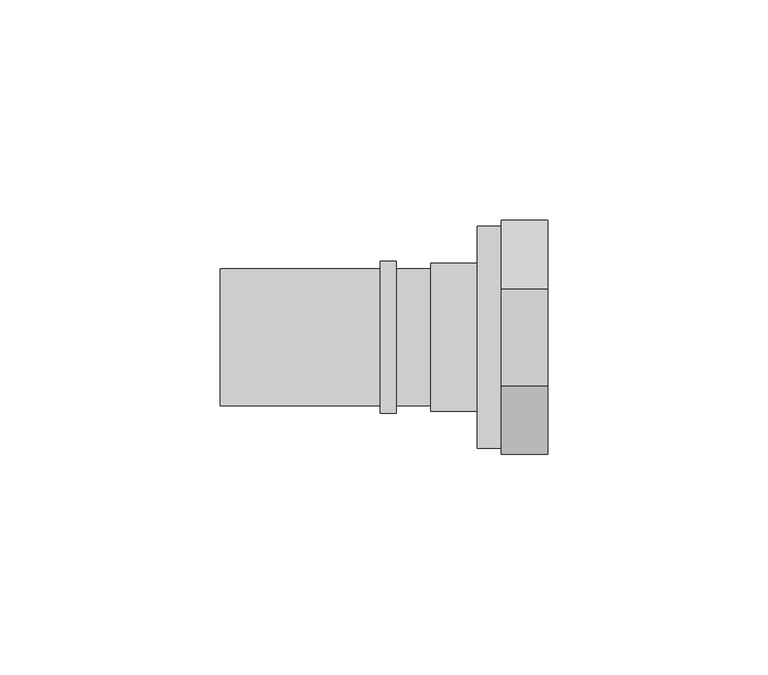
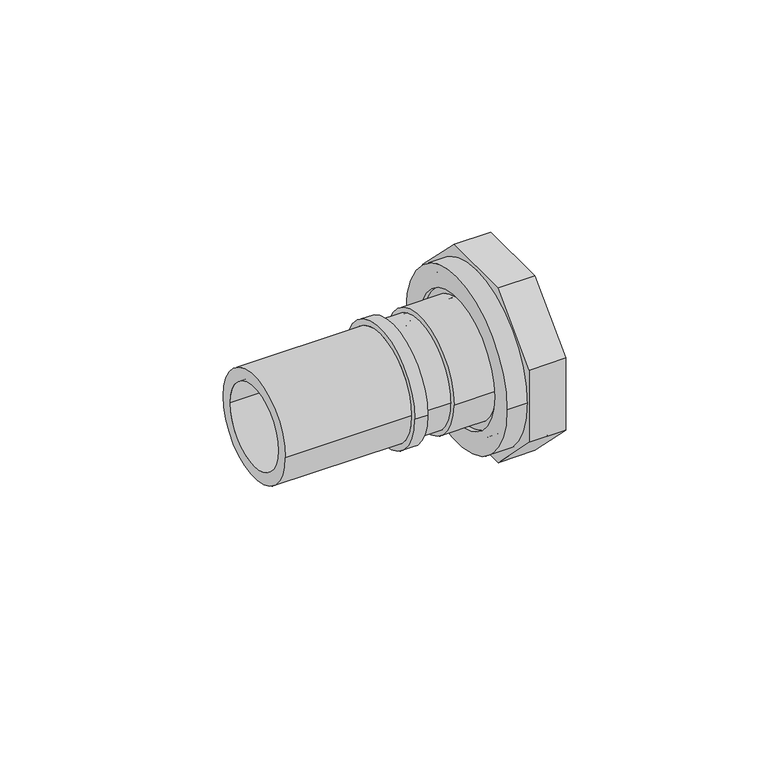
"""IFC4 building model written with IfcOpenShell, lengths in millimetres: pipe fitting geometry, FASTLOC_Adapter with union nut LX : FSL A union nut PL."""

import ifcopenshell
import ifcopenshell.guid

model = None  # the IFC model being written
_history = None  # IfcOwnerHistory: only IFC2X3 demands one
_inside = {}  # id of a spatial element -> (the spatial element, [elements in it])
_under = {}  # id of a project, library or spatial element -> (it, [spatial elements below it])
_declared = {}  # id of a project -> (the project, [libraries it declares])
_typed = {}  # id of a type object -> (the type object, [elements of that type])
_made_of = {}  # id of a material, layer set ... -> (it, [elements and type objects made of it])


def new_model(schema):
    """Start an empty IFC model of exactly this schema.

    Asked for "IFC4X3", IfcOpenShell would pick the latest addendum, in which some entities
    have other attributes; the version numbers below select the first issue.
    IFC2X3 requires an IfcOwnerHistory on every rooted entity: one is made here for all.
    """
    global model, _history
    if schema == "IFC4X3":
        model = ifcopenshell.file(schema_version=(4, 3, 0, 0))
    else:
        model = ifcopenshell.file(schema=schema)
    _inside.clear()
    _under.clear()
    _declared.clear()
    _typed.clear()
    _made_of.clear()
    _history = None
    if model.schema == "IFC2X3":
        org = make("IfcOrganization", Name="unknown")
        user = make(
            "IfcPersonAndOrganization",
            ThePerson=make("IfcPerson", FamilyName="unknown"),
            TheOrganization=org,
        )
        app = make(
            "IfcApplication",
            ApplicationDeveloper=org,
            Version="unknown",
            ApplicationFullName="unknown",
            ApplicationIdentifier="unknown",
        )
        _history = make(
            "IfcOwnerHistory",
            OwningUser=user,
            OwningApplication=app,
            ChangeAction="ADDED",
            CreationDate=0,
        )
    return model


def make(cls, **values):
    """One entity of the class cls with the attributes given. An attribute that is None is left unset."""
    return model.create_entity(
        cls, **{name: value for name, value in values.items() if value is not None}
    )


def rooted(cls, **values):
    """An entity with a GlobalId (a new one), such as an element, a storey or a relation."""
    return make(cls, GlobalId=ifcopenshell.guid.new(), OwnerHistory=_history, **values)


def si_unit(unit_type, name, prefix=None):
    """IfcSIUnit, for example si_unit("LENGTHUNIT", "METRE", prefix="MILLI")."""
    return make("IfcSIUnit", UnitType=unit_type, Prefix=prefix, Name=name)


def assignment(units):
    """IfcUnitAssignment: the units of a project."""
    return None if units is None else make("IfcUnitAssignment", Units=units)


def point(xyz):
    """IfcCartesianPoint."""
    return None if xyz is None else make("IfcCartesianPoint", Coordinates=xyz)


def direction(xyz):
    """IfcDirection."""
    return None if xyz is None else make("IfcDirection", DirectionRatios=xyz)


def frame(location, z_axis=None, x_axis=None):
    """IfcAxis2Placement3D, a coordinate frame: its origin and axes. An axis left out is left unset."""
    return make(
        "IfcAxis2Placement3D",
        Location=point(location),
        Axis=direction(z_axis),
        RefDirection=direction(x_axis),
    )


def frame_2d(location, x_axis=None):
    """IfcAxis2Placement2D, a coordinate frame in the plane: its origin and x axis."""
    return make(
        "IfcAxis2Placement2D", Location=point(location), RefDirection=direction(x_axis)
    )


def origin():
    """The frame at (0, 0, 0) with its axes left unset."""
    return frame((0.0, 0.0, 0.0))


def origin_2d():
    """The frame at (0, 0) in the plane with its x axis left unset."""
    return frame_2d((0.0, 0.0))


def place(relative_to, where):
    """IfcLocalPlacement: puts the frame where relative to a parent placement (None: the world)."""
    return make(
        "IfcLocalPlacement", PlacementRelTo=relative_to, RelativePlacement=where
    )


def context(
    kind, dimensions, precision=None, world=None, true_north=None, identifier=None
):
    """IfcGeometricRepresentationContext, for example the 3D "Model" context."""
    return make(
        "IfcGeometricRepresentationContext",
        ContextIdentifier=identifier,
        ContextType=kind,
        CoordinateSpaceDimension=dimensions,
        Precision=precision,
        WorldCoordinateSystem=world,
        TrueNorth=true_north,
    )


def project(units=None, contexts=None):
    """IfcProject with its units and contexts."""
    return rooted(
        "IfcProject",
        Name="project",
        RepresentationContexts=contexts,
        UnitsInContext=assignment(units),
    )


def spatial(cls, under=None, at=None, **own):
    """A site, building, storey or space (cls), placed at a placement, below another one or the project."""
    s = rooted(cls, ObjectPlacement=at, **own)
    if under is not None:
        _under.setdefault(under.id(), (under, []))[1].append(s)
    return s


def polyline(points):
    """IfcPolyline through the points."""
    return make("IfcPolyline", Points=[point(p) for p in points])


def circle_curve(where, radius):
    """IfcCircle in the frame where."""
    return make("IfcCircle", Position=where, Radius=radius)


def trimmed(basis, trim1, trim2, sense, master):
    """IfcTrimmedCurve: the piece of a basis curve between two trims."""
    return make(
        "IfcTrimmedCurve",
        BasisCurve=basis,
        Trim1=trim1,
        Trim2=trim2,
        SenseAgreement=sense,
        MasterRepresentation=master,
    )


def segment(curve, same_sense, transition):
    """IfcCompositeCurveSegment."""
    return make(
        "IfcCompositeCurveSegment",
        Transition=transition,
        SameSense=same_sense,
        ParentCurve=curve,
    )


def composite_curve(segments, self_intersect=None):
    """IfcCompositeCurve: segments joined end to end."""
    return make("IfcCompositeCurve", Segments=segments, SelfIntersect=self_intersect)


def outline(outer, holes=None, kind="AREA"):
    """IfcArbitraryClosedProfileDef: a profile drawn as a closed curve; with holes, ...WithVoids."""
    if holes is None:
        return make("IfcArbitraryClosedProfileDef", ProfileType=kind, OuterCurve=outer)
    return make(
        "IfcArbitraryProfileDefWithVoids",
        ProfileType=kind,
        OuterCurve=outer,
        InnerCurves=holes,
    )


def extrude(swept, where, along, depth):
    """IfcExtrudedAreaSolid: the profile swept, set in the frame where, extruded along a direction by depth."""
    return make(
        "IfcExtrudedAreaSolid",
        SweptArea=swept,
        Position=where,
        ExtrudedDirection=direction(along),
        Depth=depth,
    )


def shape(context_of_items, identifier, shape_type, items):
    """IfcShapeRepresentation: the items that make up one representation, for example the "Body"."""
    return make(
        "IfcShapeRepresentation",
        ContextOfItems=context_of_items,
        RepresentationIdentifier=identifier,
        RepresentationType=shape_type,
        Items=items,
    )


def source(mapping_origin, context_of_items, identifier, shape_type, items):
    """IfcRepresentationMap: a shape defined once, which mapped items show again and again."""
    return make(
        "IfcRepresentationMap",
        MappingOrigin=mapping_origin,
        MappedRepresentation=shape(context_of_items, identifier, shape_type, items),
    )


def transform(
    local_origin,
    x_axis=None,
    y_axis=None,
    z_axis=None,
    scale=None,
    scale2=None,
    scale3=None,
    uniform=True,
):
    """IfcCartesianTransformationOperator3D, or its non-uniform kind. x_axis, y_axis, z_axis: its Axis1, 2, 3."""
    if uniform:
        return make(
            "IfcCartesianTransformationOperator3D",
            Axis1=direction(x_axis),
            Axis2=direction(y_axis),
            LocalOrigin=point(local_origin),
            Scale=scale,
            Axis3=direction(z_axis),
        )
    return make(
        "IfcCartesianTransformationOperator3DnonUniform",
        Axis1=direction(x_axis),
        Axis2=direction(y_axis),
        LocalOrigin=point(local_origin),
        Scale=scale,
        Axis3=direction(z_axis),
        Scale2=scale2,
        Scale3=scale3,
    )


def mapped(mapping_source, mapping_target):
    """IfcMappedItem: shows the shape of a source again, moved by a transform."""
    return make(
        "IfcMappedItem", MappingSource=mapping_source, MappingTarget=mapping_target
    )


def made_of(thing, what):
    """Note that an element or type object is made of a material, layer set ...; save() writes the relation."""
    if what is not None:
        _made_of.setdefault(what.id(), (what, []))[1].append(thing)
    return thing


def element(
    cls,
    number,
    at=None,
    inside=None,
    cuts=None,
    type_object=None,
    material=None,
    context=None,
    identifier="Body",
    shape_type=None,
    held_by="IfcProductDefinitionShape",
    body=None,
    shapes=None,
    **own,
):
    """One element of the class cls, such as IfcWall. Its Tag is "e" and its number.

    at: its placement. inside: the storey or other place that contains it. cuts: it is an
    opening in that element (IfcRelVoidsElement). A single representation is given by context,
    identifier, shape_type and body (its items); several are given by shapes. held_by: the class
    of the entity that holds the representations. save() writes the other relations.
    """
    e = rooted(cls, Tag="e%d" % number, ObjectPlacement=at, **own)
    if body is not None:
        shapes = [shape(context, identifier, shape_type, body)]
    if shapes is not None:
        e.Representation = make(held_by, Representations=shapes)
    if inside is not None:
        _inside.setdefault(inside.id(), (inside, []))[1].append(e)
    if cuts is not None:
        rooted(
            "IfcRelVoidsElement", RelatingBuildingElement=cuts, RelatedOpeningElement=e
        )
    if type_object is not None:
        _typed.setdefault(type_object.id(), (type_object, []))[1].append(e)
    return made_of(e, material)


def aggregate(whole, parts):
    """IfcRelAggregates: a whole, such as a stair, and the parts it consists of."""
    return rooted("IfcRelAggregates", RelatingObject=whole, RelatedObjects=parts)


def save(model, path):
    """Write the relations noted so far, then the file.

    IfcRelAggregates (storeys below a building ...), IfcRelContainedInSpatialStructure (elements
    in a storey), IfcRelDefinesByType, IfcRelAssociatesMaterial and IfcRelDeclares: one each for
    every whole, place, type object, material and project.
    """
    for whole, parts in _under.values():
        aggregate(whole, parts)
    for where, things in _inside.values():
        rooted(
            "IfcRelContainedInSpatialStructure",
            RelatedElements=things,
            RelatingStructure=where,
        )
    for kind, things in _typed.values():
        rooted("IfcRelDefinesByType", RelatedObjects=things, RelatingType=kind)
    for what, things in _made_of.values():
        rooted("IfcRelAssociatesMaterial", RelatedObjects=things, RelatingMaterial=what)
    for by, libraries in _declared.values():
        rooted("IfcRelDeclares", RelatingContext=by, RelatedDefinitions=libraries)
    model.write(path)


def plane_surface(at):
    """IfcPlane: the flat surface through the origin of the frame at, square to its z axis."""
    return make("IfcPlane", Position=at)


def cylinder_surface(at, radius):
    """IfcCylindricalSurface: all points at the distance radius from the z axis of the frame at."""
    return make("IfcCylindricalSurface", Position=at, Radius=radius)


def revolved_surface(curve, axis_point, axis_direction):
    """IfcSurfaceOfRevolution: the curve turned about the line through axis_point along axis_direction."""
    return make(
        "IfcSurfaceOfRevolution",
        SweptCurve=make("IfcArbitraryOpenProfileDef", ProfileType="CURVE", Curve=curve),
        AxisPosition=make("IfcAxis1Placement", Location=point(axis_point), Axis=direction(axis_direction)),
    )


def advanced_brep(points, edges, surfaces, faces):
    """IfcAdvancedBrep: a solid bounded by faces that lie on surfaces and meet in shared edges.

    An edge is (start, end): straight between two places in points (the first is 0);
    or (start, end, curve); or (start, end, curve, False) where it runs against its curve.
    A face is (place in surfaces, loops), or (place, loops, False) where it looks against
    its surface's normal. A loop lists edges by number (the first is 1), with a minus sign
    where the edge is run from its end to its start. The first loop is the outer one.
    """
    corners = [point(p) for p in points]
    vertices = [make("IfcVertexPoint", VertexGeometry=c) for c in corners]
    made = []
    for start, end, *more in edges:
        made.append(
            make(
                "IfcEdgeCurve",
                EdgeStart=vertices[start],
                EdgeEnd=vertices[end],
                EdgeGeometry=more[0] if more else make("IfcPolyline", Points=[corners[start], corners[end]]),
                SameSense=more[1] if len(more) > 1 else True,
            )
        )
    hull = []
    for where, loops, *sense in faces:
        bounds = []
        for j, loop in enumerate(loops):
            ring = [make("IfcOrientedEdge", EdgeElement=made[abs(k) - 1], Orientation=k > 0) for k in loop]
            bounds.append(
                make(
                    "IfcFaceOuterBound" if j == 0 else "IfcFaceBound",
                    Bound=make("IfcEdgeLoop", EdgeList=ring),
                    Orientation=True,
                )
            )
        hull.append(make("IfcAdvancedFace", Bounds=bounds, FaceSurface=surfaces[where], SameSense=sense[0] if sense else True))
    return make("IfcAdvancedBrep", Outer=make("IfcClosedShell", CfsFaces=hull))


def pipe_fitting_e0dfd6fd(model_context):
    return source(origin(), model_context, "Body", "SolidModel", [
        advanced_brep(
        [(12.0, 16.75, 0.0), (12.0, -16.75, 0.0), (0.0, -16.75, 0.0), (0.0, 16.75, 0.0), (14.0, 20.85, 0.0), (14.0, -20.85, 0.0), (12.0, -20.85, 0.0), (12.0, 20.85, 0.0), (1.4730817, 15.0, 0.0), (1.4730817, -15.0, 0.0), (14.0, -15.0, 0.0), (14.0, 15.0, 0.0), (0.0, 12.8264556, 0.0), (0.0, -12.8264556, 0.0), (1.4730817, -12.8264556, 0.0), (1.4730817, 12.8264556, 0.0)],
        [
            (0, 1, circle_curve(frame((12.0, 0.0, 0.0), z_axis=(-1.0, 0.0, 0.0), x_axis=(0.0, -1.0, 0.0)), 16.75)),
            (1, 2),
            (2, 3, circle_curve(frame((0.0, 0.0, 0.0), z_axis=(1.0, 0.0, 0.0), x_axis=(0.0, -1.0, 0.0)), 16.75)),
            (3, 0),
            (4, 5, circle_curve(frame((14.0, 0.0, 0.0), z_axis=(-1.0, 0.0, 0.0), x_axis=(0.0, -1.0, 0.0)), 20.85)),
            (5, 6),
            (6, 7, circle_curve(frame((12.0, 0.0, 0.0), z_axis=(1.0, 0.0, 0.0), x_axis=(0.0, -1.0, 0.0)), 20.85)),
            (7, 4),
            (8, 9, circle_curve(frame((1.4730817, 0.0, 0.0), z_axis=(-1.0, 0.0, 0.0), x_axis=(0.0, -1.0, 0.0)), 15.0)),
            (9, 10),
            (10, 11, circle_curve(frame((14.0, 0.0, 0.0), z_axis=(1.0, 0.0, 0.0), x_axis=(0.0, -1.0, 0.0)), 15.0)),
            (11, 8),
            (12, 13, circle_curve(frame((0.0, 0.0, 0.0), z_axis=(-1.0, 0.0, 0.0), x_axis=(0.0, -1.0, 0.0)), 12.8264556)),
            (13, 14),
            (14, 15, circle_curve(frame((1.4730817, 0.0, 0.0), z_axis=(1.0, 0.0, 0.0), x_axis=(0.0, -1.0, 0.0)), 12.8264556)),
            (15, 12),
            (2, 3, circle_curve(frame((0.0, 0.0, 0.0), z_axis=(-1.0, 0.0, 0.0), x_axis=(0.0, 1.0, 0.0)), 16.75)),
            (12, 13, circle_curve(frame((0.0, 0.0, 0.0), z_axis=(1.0, 0.0, 0.0), x_axis=(0.0, 1.0, 0.0)), 12.8264556)),
            (1, 0, circle_curve(frame((12.0, 0.0, 0.0), z_axis=(-1.0, 0.0, 0.0), x_axis=(0.0, 1.0, 0.0)), 16.75)),
            (6, 7, circle_curve(frame((12.0, 0.0, 0.0), z_axis=(-1.0, 0.0, 0.0), x_axis=(0.0, 1.0, 0.0)), 20.85)),
            (5, 4, circle_curve(frame((14.0, 0.0, 0.0), z_axis=(-1.0, 0.0, 0.0), x_axis=(0.0, 1.0, 0.0)), 20.85)),
            (10, 11, circle_curve(frame((14.0, 0.0, 0.0), z_axis=(-1.0, 0.0, 0.0), x_axis=(0.0, 1.0, 0.0)), 15.0)),
            (9, 8, circle_curve(frame((1.4730817, 0.0, 0.0), z_axis=(-1.0, 0.0, 0.0), x_axis=(0.0, 1.0, 0.0)), 15.0)),
            (14, 15, circle_curve(frame((1.4730817, 0.0, 0.0), z_axis=(-1.0, 0.0, 0.0), x_axis=(0.0, 1.0, 0.0)), 12.8264556)),
        ],
        [
            cylinder_surface(frame((0.0, 0.0, 0.0), z_axis=(1.0, 0.0, 0.0), x_axis=(0.0, -1.0, 0.0)), 16.75),
            cylinder_surface(frame((0.0, 0.0, 0.0), z_axis=(1.0, 0.0, 0.0), x_axis=(0.0, -1.0, 0.0)), 20.85),
            revolved_surface(polyline([(14.0, -15.0, 0.0), (1.4730817, -15.0, 0.0)]), (0.0, 0.0, 0.0), (1.0, 0.0, 0.0)),
            revolved_surface(polyline([(1.4730817, -12.8264556, 0.0), (0.0, -12.8264556, 0.0)]), (0.0, 0.0, 0.0), (1.0, 0.0, 0.0)),
            plane_surface(frame((0.0, 0.0, 0.0), z_axis=(-1.0, 0.0, 0.0), x_axis=(0.0, 1.0, 0.0))),
            cylinder_surface(frame((0.0, 0.0, 0.0), z_axis=(1.0, 0.0, 0.0), x_axis=(0.0, 1.0, 0.0)), 16.75),
            plane_surface(frame((12.0, 0.0, 0.0), z_axis=(-1.0, 0.0, 0.0), x_axis=(0.0, 1.0, 0.0))),
            cylinder_surface(frame((0.0, 0.0, 0.0), z_axis=(1.0, 0.0, 0.0), x_axis=(0.0, 1.0, 0.0)), 20.85),
            plane_surface(frame((14.0, 0.0, 0.0), z_axis=(1.0, 0.0, 0.0), x_axis=(0.0, 1.0, 0.0))),
            revolved_surface(polyline([(14.0, 15.0, 0.0), (1.4730817, 15.0, 0.0)]), (0.0, 0.0, 0.0), (1.0, 0.0, 0.0)),
            plane_surface(frame((1.4730817, 0.0, 0.0), z_axis=(1.0, 0.0, 0.0), x_axis=(0.0, 1.0, 0.0))),
            revolved_surface(polyline([(1.4730817, 12.8264556, 0.0), (0.0, 12.8264556, 0.0)]), (0.0, 0.0, 0.0), (1.0, 0.0, 0.0)),
        ],
        [
            (0, [[1, 2, 3, 4]]),
            (1, [[5, 6, 7, 8]]),
            (2, [[9, 10, 11, 12]]),
            (3, [[13, 14, 15, 16]]),
            (4, [[17, -3], [18, -13]]),
            (5, [[19, -4, -17, -2]]),
            (6, [[20, -7], [-19, -1]]),
            (7, [[21, -8, -20, -6]]),
            (8, [[-21, -5], [22, -11]]),
            (9, [[23, -12, -22, -10]]),
            (10, [[-23, -9], [24, -15]]),
            (11, [[-18, -16, -24, -14]]),
        ],
    ),
        advanced_brep(
        [(26.5, 25.15, 0.0), (26.5, -25.15, 0.0), (10.5, -25.15, 0.0), (10.5, 25.15, 0.0), (14.0, 22.25, 0.0), (14.0, -22.25, 0.0), (26.5, -22.25, 0.0), (26.5, 22.25, 0.0), (10.5, 18.75, 0.0), (10.5, -18.75, 0.0), (14.0, -18.75, 0.0), (14.0, 18.75, 0.0)],
        [
            (0, 1, circle_curve(frame((26.5, 0.0, 0.0), z_axis=(-1.0, 0.0, 0.0), x_axis=(0.0, -1.0, 0.0)), 25.15)),
            (1, 2),
            (2, 3, circle_curve(frame((10.5, 0.0, 0.0), z_axis=(1.0, 0.0, 0.0), x_axis=(0.0, -1.0, 0.0)), 25.15)),
            (3, 0),
            (4, 5, circle_curve(frame((14.0, 0.0, 0.0), z_axis=(-1.0, 0.0, 0.0), x_axis=(0.0, -1.0, 0.0)), 22.25)),
            (5, 6),
            (6, 7, circle_curve(frame((26.5, 0.0, 0.0), z_axis=(1.0, 0.0, 0.0), x_axis=(0.0, -1.0, 0.0)), 22.25)),
            (7, 4),
            (8, 9, circle_curve(frame((10.5, 0.0, 0.0), z_axis=(-1.0, 0.0, 0.0), x_axis=(0.0, -1.0, 0.0)), 18.75)),
            (9, 10),
            (10, 11, circle_curve(frame((14.0, 0.0, 0.0), z_axis=(1.0, 0.0, 0.0), x_axis=(0.0, -1.0, 0.0)), 18.75)),
            (11, 8),
            (1, 0, circle_curve(frame((26.5, 0.0, 0.0), z_axis=(-1.0, 0.0, 0.0), x_axis=(0.0, 1.0, 0.0)), 25.15)),
            (3, 2, circle_curve(frame((10.5, 0.0, 0.0), z_axis=(1.0, 0.0, 0.0), x_axis=(0.0, 1.0, 0.0)), 25.15)),
            (6, 7, circle_curve(frame((26.5, 0.0, 0.0), z_axis=(-1.0, 0.0, 0.0), x_axis=(0.0, 1.0, 0.0)), 22.25)),
            (5, 4, circle_curve(frame((14.0, 0.0, 0.0), z_axis=(-1.0, 0.0, 0.0), x_axis=(0.0, 1.0, 0.0)), 22.25)),
            (10, 11, circle_curve(frame((14.0, 0.0, 0.0), z_axis=(-1.0, 0.0, 0.0), x_axis=(0.0, 1.0, 0.0)), 18.75)),
            (9, 8, circle_curve(frame((10.5, 0.0, 0.0), z_axis=(-1.0, 0.0, 0.0), x_axis=(0.0, 1.0, 0.0)), 18.75)),
        ],
        [
            cylinder_surface(frame((0.0, 0.0, 0.0), z_axis=(1.0, 0.0, 0.0), x_axis=(0.0, -1.0, 0.0)), 25.15),
            revolved_surface(polyline([(26.5, -22.25, 0.0), (14.0, -22.25, 0.0)]), (0.0, 0.0, 0.0), (1.0, 0.0, 0.0)),
            revolved_surface(polyline([(14.0, -18.75, 0.0), (10.5, -18.75, 0.0)]), (0.0, 0.0, 0.0), (1.0, 0.0, 0.0)),
            cylinder_surface(frame((0.0, 0.0, 0.0), z_axis=(1.0, 0.0, 0.0), x_axis=(0.0, 1.0, 0.0)), 25.15),
            plane_surface(frame((26.5, 0.0, 0.0), z_axis=(1.0, 0.0, 0.0), x_axis=(0.0, 1.0, 0.0))),
            revolved_surface(polyline([(26.5, 22.25, 0.0), (14.0, 22.25, 0.0)]), (0.0, 0.0, 0.0), (1.0, 0.0, 0.0)),
            plane_surface(frame((14.0, 0.0, 0.0), z_axis=(1.0, 0.0, 0.0), x_axis=(0.0, 1.0, 0.0))),
            revolved_surface(polyline([(14.0, 18.75, 0.0), (10.5, 18.75, 0.0)]), (0.0, 0.0, 0.0), (1.0, 0.0, 0.0)),
            plane_surface(frame((10.5, 0.0, 0.0), z_axis=(-1.0, 0.0, 0.0), x_axis=(0.0, 1.0, 0.0))),
        ],
        [
            (0, [[1, 2, 3, 4]]),
            (1, [[5, 6, 7, 8]]),
            (2, [[9, 10, 11, 12]]),
            (3, [[13, -4, 14, -2]]),
            (4, [[-13, -1], [15, -7]]),
            (5, [[16, -8, -15, -6]]),
            (6, [[-16, -5], [17, -11]]),
            (7, [[18, -12, -17, -10]]),
            (8, [[-14, -3], [-18, -9]]),
        ],
    ),
        extrude(outline(polyline([(-10.9766594, -26.5), (-26.5, -10.9766594), (-26.5, 10.9766594), (-10.9766594, 26.5), (10.9766594, 26.5), (26.5, 10.9766594), (26.5, -10.9766594), (10.9766594, -26.5), (-10.9766594, -26.5)]), holes=[composite_curve([segment(trimmed(circle_curve(origin_2d(), 22.25), [point((-22.25, 0.0))], [point((22.25, 0.0))], True, "CARTESIAN"), True, "CONTINUOUS"), segment(trimmed(circle_curve(origin_2d(), 22.25), [point((22.25, 0.0))], [point((-22.25, 0.0))], True, "CARTESIAN"), True, "CONTINUOUS")], self_intersect=False)]), frame((16.0, 0.0, 0.0), z_axis=(1.0, 0.0, 0.0), x_axis=(0.0, 1.0, 0.0)), (0.0, 0.0, 1.0), 10.5),
        advanced_brep(
        [(-11.5, 15.5, 0.0), (-11.5, -15.5, 0.0), (-47.7, -15.5, 0.0), (-47.7, 15.5, 0.0), (-7.8, 17.2, 0.0), (-7.8, -17.2, 0.0), (-11.5, -17.2, 0.0), (-11.5, 17.2, 0.0), (0.0, 15.5, 0.0), (0.0, -15.5, 0.0), (-7.8, -15.5, 0.0), (-7.8, 15.5, 0.0), (-47.7, 11.95, 0.0), (-47.7, -11.95, 0.0), (0.0, -11.95, 0.0), (0.0, 11.95, 0.0)],
        [
            (0, 1, circle_curve(frame((-11.5, 0.0, 0.0), z_axis=(-1.0, 0.0, 0.0), x_axis=(0.0, -1.0, 0.0)), 15.5)),
            (1, 2),
            (2, 3, circle_curve(frame((-47.7, 0.0, 0.0), z_axis=(1.0, 0.0, 0.0), x_axis=(0.0, -1.0, 0.0)), 15.5)),
            (3, 0),
            (4, 5, circle_curve(frame((-7.8, 0.0, 0.0), z_axis=(-1.0, 0.0, 0.0), x_axis=(0.0, -1.0, 0.0)), 17.2)),
            (5, 6),
            (6, 7, circle_curve(frame((-11.5, 0.0, 0.0), z_axis=(1.0, 0.0, 0.0), x_axis=(0.0, -1.0, 0.0)), 17.2)),
            (7, 4),
            (8, 9, circle_curve(frame((0.0, 0.0, 0.0), z_axis=(-1.0, 0.0, 0.0), x_axis=(0.0, -1.0, 0.0)), 15.5)),
            (9, 10),
            (10, 11, circle_curve(frame((-7.8, 0.0, 0.0), z_axis=(1.0, 0.0, 0.0), x_axis=(0.0, -1.0, 0.0)), 15.5)),
            (11, 8),
            (12, 13, circle_curve(frame((-47.7, 0.0, 0.0), z_axis=(-1.0, 0.0, 0.0), x_axis=(0.0, -1.0, 0.0)), 11.95)),
            (13, 14),
            (14, 15, circle_curve(frame((0.0, 0.0, 0.0), z_axis=(1.0, 0.0, 0.0), x_axis=(0.0, -1.0, 0.0)), 11.95)),
            (15, 12),
            (2, 3, circle_curve(frame((-47.7, 0.0, 0.0), z_axis=(-1.0, 0.0, 0.0), x_axis=(0.0, 1.0, 0.0)), 15.5)),
            (12, 13, circle_curve(frame((-47.7, 0.0, 0.0), z_axis=(1.0, 0.0, 0.0), x_axis=(0.0, 1.0, 0.0)), 11.95)),
            (1, 0, circle_curve(frame((-11.5, 0.0, 0.0), z_axis=(-1.0, 0.0, 0.0), x_axis=(0.0, 1.0, 0.0)), 15.5)),
            (6, 7, circle_curve(frame((-11.5, 0.0, 0.0), z_axis=(-1.0, 0.0, 0.0), x_axis=(0.0, 1.0, 0.0)), 17.2)),
            (5, 4, circle_curve(frame((-7.8, 0.0, 0.0), z_axis=(-1.0, 0.0, 0.0), x_axis=(0.0, 1.0, 0.0)), 17.2)),
            (10, 11, circle_curve(frame((-7.8, 0.0, 0.0), z_axis=(-1.0, 0.0, 0.0), x_axis=(0.0, 1.0, 0.0)), 15.5)),
            (9, 8, circle_curve(frame((0.0, 0.0, 0.0), z_axis=(-1.0, 0.0, 0.0), x_axis=(0.0, 1.0, 0.0)), 15.5)),
            (14, 15, circle_curve(frame((0.0, 0.0, 0.0), z_axis=(-1.0, 0.0, 0.0), x_axis=(0.0, 1.0, 0.0)), 11.95)),
        ],
        [
            cylinder_surface(frame((0.0, 0.0, 0.0), z_axis=(1.0, 0.0, 0.0), x_axis=(0.0, -1.0, 0.0)), 15.5),
            cylinder_surface(frame((0.0, 0.0, 0.0), z_axis=(1.0, 0.0, 0.0), x_axis=(0.0, -1.0, 0.0)), 17.2),
            revolved_surface(polyline([(0.0, -11.95, 0.0), (-47.7, -11.95, 0.0)]), (0.0, 0.0, 0.0), (1.0, 0.0, 0.0)),
            plane_surface(frame((-47.7, 0.0, 0.0), z_axis=(-1.0, 0.0, 0.0), x_axis=(0.0, 1.0, 0.0))),
            cylinder_surface(frame((0.0, 0.0, 0.0), z_axis=(1.0, 0.0, 0.0), x_axis=(0.0, 1.0, 0.0)), 15.5),
            plane_surface(frame((-11.5, 0.0, 0.0), z_axis=(-1.0, 0.0, 0.0), x_axis=(0.0, 1.0, 0.0))),
            cylinder_surface(frame((0.0, 0.0, 0.0), z_axis=(1.0, 0.0, 0.0), x_axis=(0.0, 1.0, 0.0)), 17.2),
            plane_surface(frame((-7.8, 0.0, 0.0), z_axis=(1.0, 0.0, 0.0), x_axis=(0.0, 1.0, 0.0))),
            plane_surface(frame((0.0, 0.0, 0.0), z_axis=(1.0, 0.0, 0.0), x_axis=(0.0, 1.0, 0.0))),
            revolved_surface(polyline([(0.0, 11.95, 0.0), (-47.7, 11.95, 0.0)]), (0.0, 0.0, 0.0), (1.0, 0.0, 0.0)),
        ],
        [
            (0, [[1, 2, 3, 4]]),
            (1, [[5, 6, 7, 8]]),
            (0, [[9, 10, 11, 12]]),
            (2, [[13, 14, 15, 16]]),
            (3, [[17, -3], [18, -13]]),
            (4, [[19, -4, -17, -2]]),
            (5, [[20, -7], [-19, -1]]),
            (6, [[21, -8, -20, -6]]),
            (7, [[-21, -5], [22, -11]]),
            (4, [[23, -12, -22, -10]]),
            (8, [[-23, -9], [24, -15]]),
            (9, [[-18, -16, -24, -14]]),
        ],
    ),
    ])


if __name__ == "__main__":
    model = new_model("IFC4")
    model_context = context("Model", 3, world=origin())
    ifc_project = project(units=[si_unit("LENGTHUNIT", "METRE", prefix="MILLI")], contexts=[model_context])
    site = spatial("IfcSite", under=ifc_project)
    building = spatial("IfcBuilding", under=site)
    placement = place(None, origin())
    pipe_fitting_shape = pipe_fitting_e0dfd6fd(model_context)
    element("IfcPipeFitting", 1, ObjectType="FASTLOC_Adapter with union nut LX : FSL A union nut PL", at=placement, inside=building, context=model_context, shape_type="MappedRepresentation", body=[
        mapped(pipe_fitting_shape, transform((0.0, 0.0, 0.0), x_axis=(1.0, 0.0, 0.0), y_axis=(0.0, 1.0, 0.0), z_axis=(0.0, 0.0, 1.0))),
    ])
    save(model, "model.ifc")
